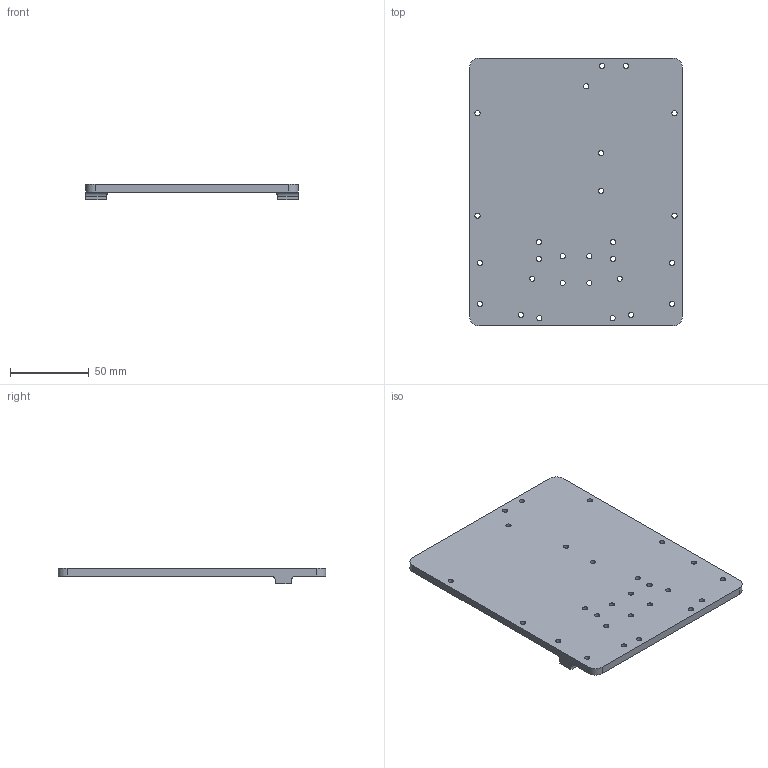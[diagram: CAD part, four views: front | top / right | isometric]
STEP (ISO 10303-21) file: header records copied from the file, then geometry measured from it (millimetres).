
FILE_DESCRIPTION(/* description */ ('STEP AP242 Edition 2','CAx-IF Rec.Pracs.---Representation and Presentation of Product Manufacturing Information (PMI)---4.0---2014-10-13','CAx-IF Rec.Pracs.---3D Tessellated Geometry---0.4---2014-09-14','2;1','CAx-IF Rec.Pracs.---User Defined Attributes---1.5---2016-08-15'),/* implementation_level */ '2;1');
FILE_NAME(/* name */ 'Part Studio 1 - Base Plate',/* time_stamp */ '2026-04-09T20:19:24Z',/* author */ (''),/* organization */ (''),/* preprocessor_version */ 'ST-DEVELOPER v20',/* originating_system */ 'ONSHAPE BY PTC INC, 1.213',/* authorisation */ ' ');
FILE_SCHEMA (('AP242_MANAGED_MODEL_BASED_3D_ENGINEERING_MIM_LF { 1 0 10303 442 3 1 4 }'));
Length unit declared in the file: metre
Products named in the file (1): Base Plate
Bounding box: 135 x 170 x 10 mm (x, y, z)
Volume: 114901 mm3; surface area: 50156 mm2
Topology: 1 solids, 1 shells, 51 faces, 143 edges, 94 vertices
Faces by surface type: cylinder 37, plane 14
Full cylindrical faces by diameter (mm): 3.3 x27
Entity records: 1670 total; most frequent: DIRECTION 290, CARTESIAN_POINT 262, ORIENTED_EDGE 232, EDGE_LOOP 132, FACE_BOUND 132, AXIS2_PLACEMENT_3D 122, EDGE_CURVE 116, VERTEX_POINT 94
